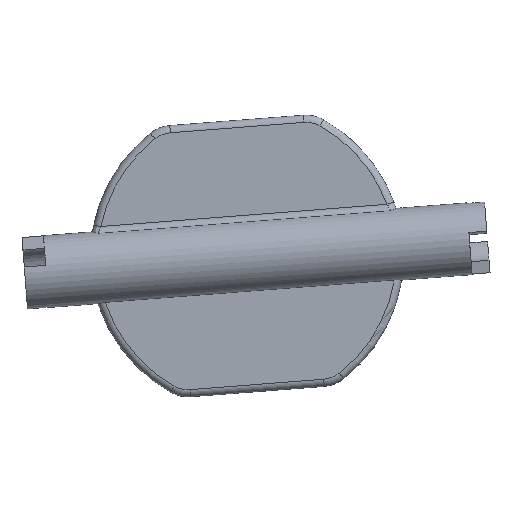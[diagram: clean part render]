
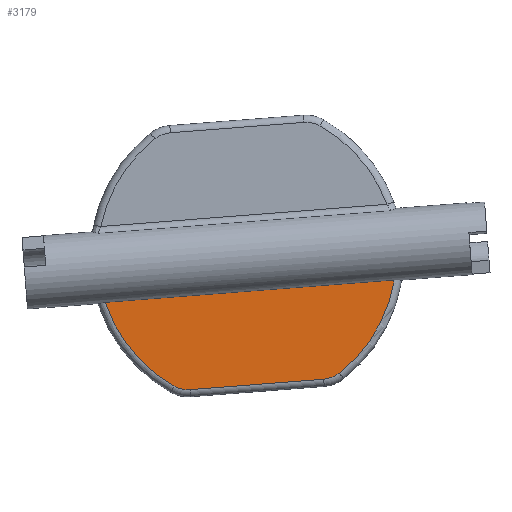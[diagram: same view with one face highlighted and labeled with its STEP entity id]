
A CAD part, front view. The second image highlights one B-rep face of the part: STEP entity #3179.
In plain terms, the highlighted planar face has unit normal (0, -1, 0).
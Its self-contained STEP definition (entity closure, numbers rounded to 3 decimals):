
#993=CARTESIAN_POINT('',(397.05,-1.,-156.928));
#994=DIRECTION('',(0.,1.,0.));
#995=DIRECTION('',(-0.49,0.,-0.872));
#996=AXIS2_PLACEMENT_3D('',#993,#994,#995);
#998=DIRECTION('',(-0.997,0.,-0.077));
#999=VECTOR('',#998,40.286);
#1000=CARTESIAN_POINT('',(417.511,-1.,-160.256));
#1001=LINE('',#1000,#999);
#1002=CARTESIAN_POINT('',(397.05,-1.,-156.928));
#1003=DIRECTION('',(0.,1.,0.));
#1004=DIRECTION('',(0.987,0.,-0.161));
#1005=AXIS2_PLACEMENT_3D('',#1002,#1003,#1004);
#1007=CARTESIAN_POINT('',(407.399,-1.,-170.073));
#1008=DIRECTION('',(0.,1.,0.));
#1009=DIRECTION('',(0.619,0.,-0.786));
#1010=AXIS2_PLACEMENT_3D('',#1007,#1008,#1009);
#1012=DIRECTION('',(-0.997,0.,-0.077));
#1013=VECTOR('',#1012,18.605);
#1014=CARTESIAN_POINT('',(407.708,-1.,-174.061));
#1015=LINE('',#1014,#1013);
#1016=CARTESIAN_POINT('',(388.849,-1.,-171.51));
#1017=DIRECTION('',(0.,1.,0.));
#1018=DIRECTION('',(0.077,0.,-0.997));
#1019=AXIS2_PLACEMENT_3D('',#1016,#1017,#1018);
#1610=CARTESIAN_POINT('',(386.888,-1.,-174.996));
#1611=CARTESIAN_POINT('',(377.346,-1.,-163.368));
#1612=VERTEX_POINT('',#1610);
#1613=VERTEX_POINT('',#1611);
#1618=CARTESIAN_POINT('',(389.158,-1.,-175.498));
#1619=VERTEX_POINT('',#1618);
#1620=CARTESIAN_POINT('',(407.708,-1.,-174.061));
#1621=VERTEX_POINT('',#1620);
#1622=CARTESIAN_POINT('',(409.873,-1.,-173.215));
#1623=VERTEX_POINT('',#1622);
#1628=CARTESIAN_POINT('',(417.511,-1.,-160.256));
#1629=VERTEX_POINT('',#1628);
#3160=CARTESIAN_POINT('',(0.,-1.,0.));
#3161=DIRECTION('',(0.,-1.,0.));
#3162=DIRECTION('',(1.,0.,0.));
#3163=AXIS2_PLACEMENT_3D('',#3160,#3161,#3162);
#3164=PLANE('',#3163);
#3166=ORIENTED_EDGE('',*,*,#3165,.T.);
#3168=ORIENTED_EDGE('',*,*,#3167,.F.);
#3170=ORIENTED_EDGE('',*,*,#3169,.T.);
#3172=ORIENTED_EDGE('',*,*,#3171,.T.);
#3174=ORIENTED_EDGE('',*,*,#3173,.T.);
#3176=ORIENTED_EDGE('',*,*,#3175,.T.);
#3177=EDGE_LOOP('',(#3166,#3168,#3170,#3172,#3174,#3176));
#3178=FACE_OUTER_BOUND('',#3177,.F.);
#3179=ADVANCED_FACE('',(#3178),#3164,.T.);
#997=CIRCLE('',#996,20.73);
#1006=CIRCLE('',#1005,20.73);
#1011=CIRCLE('',#1010,4.);
#1020=CIRCLE('',#1019,4.);
#3165=EDGE_CURVE('',#1612,#1613,#997,.T.);
#3167=EDGE_CURVE('',#1629,#1613,#1001,.T.);
#3169=EDGE_CURVE('',#1629,#1623,#1006,.T.);
#3171=EDGE_CURVE('',#1623,#1621,#1011,.T.);
#3173=EDGE_CURVE('',#1621,#1619,#1015,.T.);
#3175=EDGE_CURVE('',#1619,#1612,#1020,.T.);
